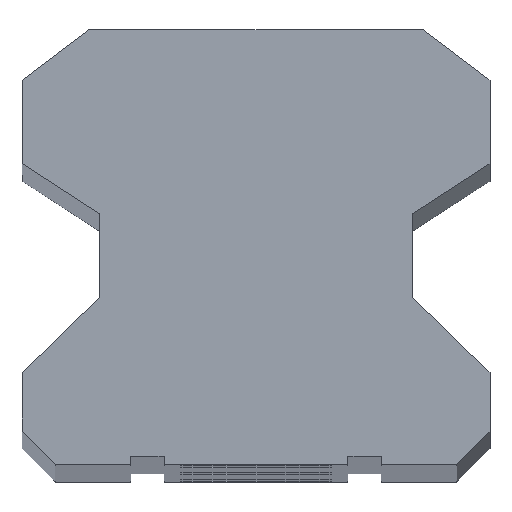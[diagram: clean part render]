
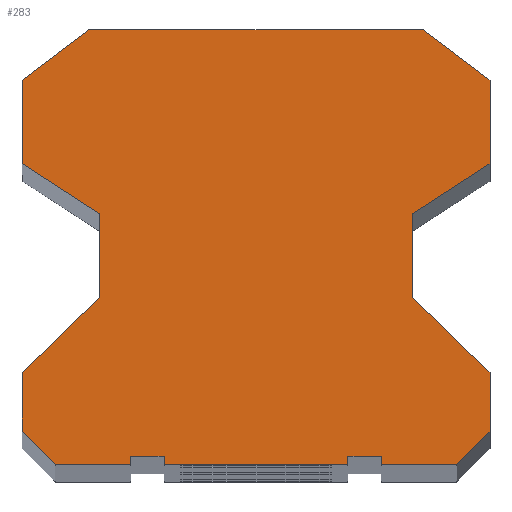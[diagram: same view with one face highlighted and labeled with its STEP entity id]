
A CAD part, top view. The second image highlights one B-rep face of the part: STEP entity #283.
In plain terms, the highlighted planar face has unit normal (0, 0, 1).
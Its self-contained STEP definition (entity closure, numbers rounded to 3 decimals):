
#283=ADVANCED_FACE('',(#757),#759,.T.);
#757=FACE_BOUND('',#758,.T.);
#758=EDGE_LOOP('',(#1032,#1033,#1034,#1035,#1036,#1037,#1038,#1039,#1040,#1041,#1042,
#1043,#1044,#1045,#1046,#1047,#1048,#1049,#1050,#1051,#1052,#1053,#1054,#1055));
#759=PLANE('',#760);
#760=AXIS2_PLACEMENT_3D('',#761,#762,#763);
#761=CARTESIAN_POINT('',(0.,0.,600.));
#762=DIRECTION('',(0.,0.,1.));
#763=DIRECTION('',(1.,0.,0.));
#1032=ORIENTED_EDGE('',*,*,#1181,.T.);
#1033=ORIENTED_EDGE('',*,*,#1208,.T.);
#1034=ORIENTED_EDGE('',*,*,#1209,.T.);
#1035=ORIENTED_EDGE('',*,*,#1210,.T.);
#1036=ORIENTED_EDGE('',*,*,#1211,.T.);
#1037=ORIENTED_EDGE('',*,*,#1212,.T.);
#1038=ORIENTED_EDGE('',*,*,#1213,.T.);
#1039=ORIENTED_EDGE('',*,*,#1214,.T.);
#1040=ORIENTED_EDGE('',*,*,#1215,.T.);
#1041=ORIENTED_EDGE('',*,*,#1216,.T.);
#1042=ORIENTED_EDGE('',*,*,#1217,.T.);
#1043=ORIENTED_EDGE('',*,*,#1218,.T.);
#1044=ORIENTED_EDGE('',*,*,#1162,.T.);
#1045=ORIENTED_EDGE('',*,*,#1207,.T.);
#1046=ORIENTED_EDGE('',*,*,#1219,.T.);
#1047=ORIENTED_EDGE('',*,*,#1220,.T.);
#1048=ORIENTED_EDGE('',*,*,#1221,.T.);
#1049=ORIENTED_EDGE('',*,*,#1222,.T.);
#1050=ORIENTED_EDGE('',*,*,#1223,.T.);
#1051=ORIENTED_EDGE('',*,*,#1224,.T.);
#1052=ORIENTED_EDGE('',*,*,#1225,.T.);
#1053=ORIENTED_EDGE('',*,*,#1226,.T.);
#1054=ORIENTED_EDGE('',*,*,#1227,.T.);
#1055=ORIENTED_EDGE('',*,*,#1228,.T.);
#1162=EDGE_CURVE('',#1283,#1281,#1284,.T.);
#1181=EDGE_CURVE('',#1321,#1319,#1322,.T.);
#1207=EDGE_CURVE('',#1281,#1368,#1370,.T.);
#1208=EDGE_CURVE('',#1319,#1371,#1372,.T.);
#1209=EDGE_CURVE('',#1371,#1373,#1374,.T.);
#1210=EDGE_CURVE('',#1373,#1375,#1376,.T.);
#1211=EDGE_CURVE('',#1375,#1377,#1378,.T.);
#1212=EDGE_CURVE('',#1377,#1379,#1380,.T.);
#1213=EDGE_CURVE('',#1379,#1381,#1382,.T.);
#1214=EDGE_CURVE('',#1381,#1383,#1384,.T.);
#1215=EDGE_CURVE('',#1383,#1385,#1386,.T.);
#1216=EDGE_CURVE('',#1385,#1387,#1388,.T.);
#1217=EDGE_CURVE('',#1387,#1389,#1390,.T.);
#1218=EDGE_CURVE('',#1389,#1283,#1391,.T.);
#1219=EDGE_CURVE('',#1368,#1392,#1393,.T.);
#1220=EDGE_CURVE('',#1392,#1394,#1395,.T.);
#1221=EDGE_CURVE('',#1394,#1396,#1397,.T.);
#1222=EDGE_CURVE('',#1396,#1398,#1399,.T.);
#1223=EDGE_CURVE('',#1398,#1400,#1401,.T.);
#1224=EDGE_CURVE('',#1400,#1402,#1403,.T.);
#1225=EDGE_CURVE('',#1402,#1404,#1405,.T.);
#1226=EDGE_CURVE('',#1404,#1406,#1407,.T.);
#1227=EDGE_CURVE('',#1406,#1408,#1409,.T.);
#1228=EDGE_CURVE('',#1408,#1321,#1410,.T.);
#1281=VERTEX_POINT('',#1509);
#1283=VERTEX_POINT('',#1513);
#1284=LINE('',#1514,#1515);
#1319=VERTEX_POINT('',#1600);
#1321=VERTEX_POINT('',#1604);
#1322=LINE('',#1605,#1606);
#1368=VERTEX_POINT('',#1702);
#1370=LINE('',#1706,#1707);
#1371=VERTEX_POINT('',#1709);
#1372=LINE('',#1710,#1711);
#1373=VERTEX_POINT('',#1713);
#1374=LINE('',#1714,#1715);
#1375=VERTEX_POINT('',#1717);
#1376=LINE('',#1718,#1719);
#1377=VERTEX_POINT('',#1721);
#1378=LINE('',#1722,#1723);
#1379=VERTEX_POINT('',#1725);
#1380=LINE('',#1726,#1727);
#1381=VERTEX_POINT('',#1729);
#1382=LINE('',#1730,#1731);
#1383=VERTEX_POINT('',#1733);
#1384=LINE('',#1734,#1735);
#1385=VERTEX_POINT('',#1737);
#1386=LINE('',#1738,#1739);
#1387=VERTEX_POINT('',#1741);
#1388=LINE('',#1742,#1743);
#1389=VERTEX_POINT('',#1745);
#1390=LINE('',#1746,#1747);
#1391=LINE('',#1749,#1750);
#1392=VERTEX_POINT('',#1752);
#1393=LINE('',#1753,#1754);
#1394=VERTEX_POINT('',#1756);
#1395=LINE('',#1757,#1758);
#1396=VERTEX_POINT('',#1760);
#1397=LINE('',#1761,#1762);
#1398=VERTEX_POINT('',#1764);
#1399=LINE('',#1765,#1766);
#1400=VERTEX_POINT('',#1768);
#1401=LINE('',#1769,#1770);
#1402=VERTEX_POINT('',#1772);
#1403=LINE('',#1773,#1774);
#1404=VERTEX_POINT('',#1776);
#1405=LINE('',#1777,#1778);
#1406=VERTEX_POINT('',#1780);
#1407=LINE('',#1781,#1782);
#1408=VERTEX_POINT('',#1784);
#1409=LINE('',#1785,#1786);
#1410=LINE('',#1788,#1789);
#1509=CARTESIAN_POINT('',(-10.,26.,600.));
#1513=CARTESIAN_POINT('',(10.,26.,600.));
#1514=CARTESIAN_POINT('',(10.,26.,600.));
#1515=VECTOR('',#1516,1.);
#1516=DIRECTION('',(-1.,0.,0.));
#1600=CARTESIAN_POINT('',(5.5,0.,600.));
#1604=CARTESIAN_POINT('',(-5.5,0.,600.));
#1605=CARTESIAN_POINT('',(-5.5,0.,600.));
#1606=VECTOR('',#1607,1.);
#1607=DIRECTION('',(1.,0.,0.));
#1702=CARTESIAN_POINT('',(-14.,23.,600.));
#1706=CARTESIAN_POINT('',(-10.,26.,600.));
#1707=VECTOR('',#1708,1.);
#1708=DIRECTION('',(-0.8,-0.6,0.));
#1709=CARTESIAN_POINT('',(5.5,0.5,600.));
#1710=CARTESIAN_POINT('',(5.5,0.,600.));
#1711=VECTOR('',#1712,1.);
#1712=DIRECTION('',(0.,1.,0.));
#1713=CARTESIAN_POINT('',(7.5,0.5,600.));
#1714=CARTESIAN_POINT('',(5.5,0.5,600.));
#1715=VECTOR('',#1716,1.);
#1716=DIRECTION('',(1.,0.,0.));
#1717=CARTESIAN_POINT('',(7.5,0.,600.));
#1718=CARTESIAN_POINT('',(7.5,0.5,600.));
#1719=VECTOR('',#1720,1.);
#1720=DIRECTION('',(0.,-1.,0.));
#1721=CARTESIAN_POINT('',(12.,0.,600.));
#1722=CARTESIAN_POINT('',(7.5,0.,600.));
#1723=VECTOR('',#1724,1.);
#1724=DIRECTION('',(1.,0.,0.));
#1725=CARTESIAN_POINT('',(14.,2.,600.));
#1726=CARTESIAN_POINT('',(12.,0.,600.));
#1727=VECTOR('',#1728,1.);
#1728=DIRECTION('',(0.707,0.707,0.));
#1729=CARTESIAN_POINT('',(14.,5.5,600.));
#1730=CARTESIAN_POINT('',(14.,2.,600.));
#1731=VECTOR('',#1732,1.);
#1732=DIRECTION('',(0.,1.,0.));
#1733=CARTESIAN_POINT('',(9.35,10.,600.));
#1734=CARTESIAN_POINT('',(14.,5.5,600.));
#1735=VECTOR('',#1736,1.);
#1736=DIRECTION('',(-0.719,0.695,0.));
#1737=CARTESIAN_POINT('',(9.35,15.,600.));
#1738=CARTESIAN_POINT('',(9.35,10.,600.));
#1739=VECTOR('',#1740,1.);
#1740=DIRECTION('',(0.,1.,0.));
#1741=CARTESIAN_POINT('',(14.,18.,600.));
#1742=CARTESIAN_POINT('',(9.35,15.,600.));
#1743=VECTOR('',#1744,1.);
#1744=DIRECTION('',(0.84,0.542,0.));
#1745=CARTESIAN_POINT('',(14.,23.,600.));
#1746=CARTESIAN_POINT('',(14.,18.,600.));
#1747=VECTOR('',#1748,1.);
#1748=DIRECTION('',(0.,1.,0.));
#1749=CARTESIAN_POINT('',(14.,23.,600.));
#1750=VECTOR('',#1751,1.);
#1751=DIRECTION('',(-0.8,0.6,0.));
#1752=CARTESIAN_POINT('',(-14.,18.,600.));
#1753=CARTESIAN_POINT('',(-14.,23.,600.));
#1754=VECTOR('',#1755,1.);
#1755=DIRECTION('',(0.,-1.,0.));
#1756=CARTESIAN_POINT('',(-9.35,15.,600.));
#1757=CARTESIAN_POINT('',(-14.,18.,600.));
#1758=VECTOR('',#1759,1.);
#1759=DIRECTION('',(0.84,-0.542,0.));
#1760=CARTESIAN_POINT('',(-9.35,10.,600.));
#1761=CARTESIAN_POINT('',(-9.35,15.,600.));
#1762=VECTOR('',#1763,1.);
#1763=DIRECTION('',(0.,-1.,0.));
#1764=CARTESIAN_POINT('',(-14.,5.5,600.));
#1765=CARTESIAN_POINT('',(-9.35,10.,600.));
#1766=VECTOR('',#1767,1.);
#1767=DIRECTION('',(-0.719,-0.695,0.));
#1768=CARTESIAN_POINT('',(-14.,2.,600.));
#1769=CARTESIAN_POINT('',(-14.,5.5,600.));
#1770=VECTOR('',#1771,1.);
#1771=DIRECTION('',(0.,-1.,0.));
#1772=CARTESIAN_POINT('',(-12.,0.,600.));
#1773=CARTESIAN_POINT('',(-14.,2.,600.));
#1774=VECTOR('',#1775,1.);
#1775=DIRECTION('',(0.707,-0.707,0.));
#1776=CARTESIAN_POINT('',(-7.5,0.,600.));
#1777=CARTESIAN_POINT('',(-12.,0.,600.));
#1778=VECTOR('',#1779,1.);
#1779=DIRECTION('',(1.,0.,0.));
#1780=CARTESIAN_POINT('',(-7.5,0.5,600.));
#1781=CARTESIAN_POINT('',(-7.5,0.,600.));
#1782=VECTOR('',#1783,1.);
#1783=DIRECTION('',(0.,1.,0.));
#1784=CARTESIAN_POINT('',(-5.5,0.5,600.));
#1785=CARTESIAN_POINT('',(-7.5,0.5,600.));
#1786=VECTOR('',#1787,1.);
#1787=DIRECTION('',(1.,0.,0.));
#1788=CARTESIAN_POINT('',(-5.5,0.5,600.));
#1789=VECTOR('',#1790,1.);
#1790=DIRECTION('',(0.,-1.,0.));
